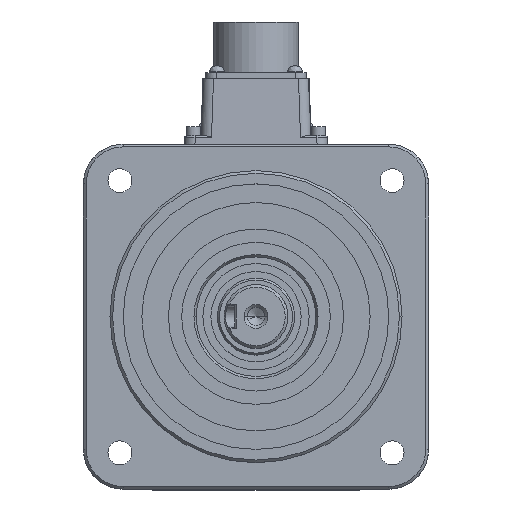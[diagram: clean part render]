
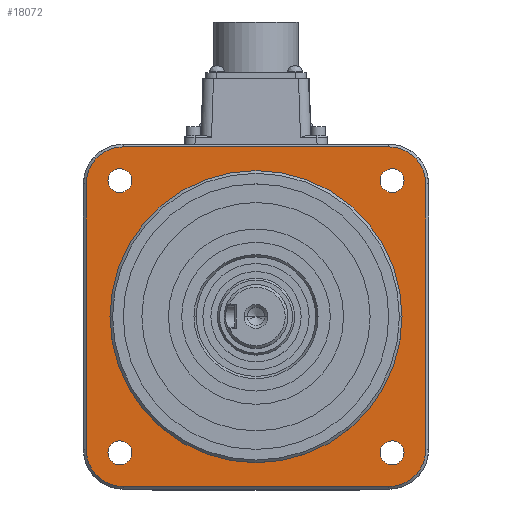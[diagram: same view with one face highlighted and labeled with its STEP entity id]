
A CAD part, top view. The second image highlights one B-rep face of the part: STEP entity #18072.
In plain terms, the highlighted planar face has unit normal (0, 0, 1).
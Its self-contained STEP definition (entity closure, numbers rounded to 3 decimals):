
#5806=DIRECTION('',(0.,1.,0.));
#5807=VECTOR('',#5806,100.);
#5808=CARTESIAN_POINT('',(63.969,-50.,158.));
#5809=LINE('',#5808,#5807);
#5843=DIRECTION('',(1.,0.,0.));
#5844=VECTOR('',#5843,100.);
#5845=CARTESIAN_POINT('',(-50.,-63.969,158.));
#5846=LINE('',#5845,#5844);
#5847=CARTESIAN_POINT('',(50.,50.,158.));
#5848=DIRECTION('',(0.,0.,-1.));
#5849=DIRECTION('',(0.,1.,0.));
#5850=AXIS2_PLACEMENT_3D('',#5847,#5848,#5849);
#5852=CARTESIAN_POINT('',(50.,-50.,158.));
#5853=DIRECTION('',(0.,0.,-1.));
#5854=DIRECTION('',(1.,0.,0.));
#5855=AXIS2_PLACEMENT_3D('',#5852,#5853,#5854);
#5857=CARTESIAN_POINT('',(-50.,-50.,158.));
#5858=DIRECTION('',(0.,0.,-1.));
#5859=DIRECTION('',(0.,-1.,0.));
#5860=AXIS2_PLACEMENT_3D('',#5857,#5858,#5859);
#5862=DIRECTION('',(0.,1.,0.));
#5863=VECTOR('',#5862,100.);
#5864=CARTESIAN_POINT('',(-63.969,-50.,158.));
#5865=LINE('',#5864,#5863);
#5866=CARTESIAN_POINT('',(-50.,50.,158.));
#5867=DIRECTION('',(0.,0.,-1.));
#5868=DIRECTION('',(-1.,0.,0.));
#5869=AXIS2_PLACEMENT_3D('',#5866,#5867,#5868);
#5871=DIRECTION('',(1.,0.,0.));
#5872=VECTOR('',#5871,100.);
#5873=CARTESIAN_POINT('',(-50.,63.969,158.));
#5874=LINE('',#5873,#5872);
#5875=CARTESIAN_POINT('',(0.,0.,158.));
#5876=DIRECTION('',(0.,0.,1.));
#5877=DIRECTION('',(-1.,0.,0.));
#5878=AXIS2_PLACEMENT_3D('',#5875,#5876,#5877);
#5880=CARTESIAN_POINT('',(0.,0.,158.));
#5881=DIRECTION('',(0.,0.,1.));
#5882=DIRECTION('',(1.,0.,0.));
#5883=AXIS2_PLACEMENT_3D('',#5880,#5881,#5882);
#5885=CARTESIAN_POINT('',(-51.265,51.265,158.));
#5886=DIRECTION('',(0.,0.,1.));
#5887=DIRECTION('',(1.,0.,0.));
#5888=AXIS2_PLACEMENT_3D('',#5885,#5886,#5887);
#5890=CARTESIAN_POINT('',(-51.265,51.265,158.));
#5891=DIRECTION('',(0.,0.,1.));
#5892=DIRECTION('',(-1.,0.,0.));
#5893=AXIS2_PLACEMENT_3D('',#5890,#5891,#5892);
#5895=CARTESIAN_POINT('',(-51.265,-51.265,158.));
#5896=DIRECTION('',(0.,0.,1.));
#5897=DIRECTION('',(1.,0.,0.));
#5898=AXIS2_PLACEMENT_3D('',#5895,#5896,#5897);
#5900=CARTESIAN_POINT('',(-51.265,-51.265,158.));
#5901=DIRECTION('',(0.,0.,1.));
#5902=DIRECTION('',(-1.,0.,0.));
#5903=AXIS2_PLACEMENT_3D('',#5900,#5901,#5902);
#5905=CARTESIAN_POINT('',(51.265,-51.265,158.));
#5906=DIRECTION('',(0.,0.,1.));
#5907=DIRECTION('',(1.,0.,0.));
#5908=AXIS2_PLACEMENT_3D('',#5905,#5906,#5907);
#5910=CARTESIAN_POINT('',(51.265,-51.265,158.));
#5911=DIRECTION('',(0.,0.,1.));
#5912=DIRECTION('',(-1.,0.,0.));
#5913=AXIS2_PLACEMENT_3D('',#5910,#5911,#5912);
#5915=CARTESIAN_POINT('',(51.265,51.265,158.));
#5916=DIRECTION('',(0.,0.,1.));
#5917=DIRECTION('',(1.,0.,0.));
#5918=AXIS2_PLACEMENT_3D('',#5915,#5916,#5917);
#5920=CARTESIAN_POINT('',(51.265,51.265,158.));
#5921=DIRECTION('',(0.,0.,1.));
#5922=DIRECTION('',(-1.,0.,0.));
#5923=AXIS2_PLACEMENT_3D('',#5920,#5921,#5922);
#8484=CARTESIAN_POINT('',(-63.969,50.,158.));
#8485=VERTEX_POINT('',#8484);
#8488=CARTESIAN_POINT('',(50.,63.969,158.));
#8489=VERTEX_POINT('',#8488);
#8490=CARTESIAN_POINT('',(-50.,63.969,158.));
#8491=VERTEX_POINT('',#8490);
#8665=CARTESIAN_POINT('',(-50.,-63.969,158.));
#8666=VERTEX_POINT('',#8665);
#8667=CARTESIAN_POINT('',(-63.969,-50.,158.));
#8668=VERTEX_POINT('',#8667);
#8669=CARTESIAN_POINT('',(63.969,50.,158.));
#8670=VERTEX_POINT('',#8669);
#8671=CARTESIAN_POINT('',(63.969,-50.,158.));
#8672=VERTEX_POINT('',#8671);
#8673=CARTESIAN_POINT('',(50.,-63.969,158.));
#8674=VERTEX_POINT('',#8673);
#8675=CARTESIAN_POINT('',(-55.,0.,158.));
#8676=CARTESIAN_POINT('',(55.,0.,158.));
#8677=VERTEX_POINT('',#8675);
#8678=VERTEX_POINT('',#8676);
#8679=CARTESIAN_POINT('',(-46.765,51.265,158.));
#8680=CARTESIAN_POINT('',(-55.765,51.265,158.));
#8681=VERTEX_POINT('',#8679);
#8682=VERTEX_POINT('',#8680);
#8683=CARTESIAN_POINT('',(-46.765,-51.265,158.));
#8684=CARTESIAN_POINT('',(-55.765,-51.265,158.));
#8685=VERTEX_POINT('',#8683);
#8686=VERTEX_POINT('',#8684);
#8687=CARTESIAN_POINT('',(55.765,-51.265,158.));
#8688=CARTESIAN_POINT('',(46.765,-51.265,158.));
#8689=VERTEX_POINT('',#8687);
#8690=VERTEX_POINT('',#8688);
#8691=CARTESIAN_POINT('',(55.765,51.265,158.));
#8692=CARTESIAN_POINT('',(46.765,51.265,158.));
#8693=VERTEX_POINT('',#8691);
#8694=VERTEX_POINT('',#8692);
#18027=CARTESIAN_POINT('',(0.,0.,158.));
#18028=DIRECTION('',(0.,0.,1.));
#18029=DIRECTION('',(1.,0.,0.));
#18030=AXIS2_PLACEMENT_3D('',#18027,#18028,#18029);
#18031=PLANE('',#18030);
#18032=ORIENTED_EDGE('',*,*,#17955,.T.);
#18033=ORIENTED_EDGE('',*,*,#17981,.F.);
#18034=ORIENTED_EDGE('',*,*,#17996,.T.);
#18035=ORIENTED_EDGE('',*,*,#18021,.F.);
#18036=ORIENTED_EDGE('',*,*,#17884,.T.);
#18037=ORIENTED_EDGE('',*,*,#17899,.T.);
#18038=ORIENTED_EDGE('',*,*,#17914,.T.);
#18039=ORIENTED_EDGE('',*,*,#17940,.T.);
#18040=EDGE_LOOP('',(#18032,#18033,#18034,#18035,#18036,#18037,#18038,#18039));
#18041=FACE_OUTER_BOUND('',#18040,.F.);
#18043=ORIENTED_EDGE('',*,*,#18042,.T.);
#18045=ORIENTED_EDGE('',*,*,#18044,.T.);
#18046=EDGE_LOOP('',(#18043,#18045));
#18047=FACE_BOUND('',#18046,.F.);
#18049=ORIENTED_EDGE('',*,*,#18048,.T.);
#18051=ORIENTED_EDGE('',*,*,#18050,.T.);
#18052=EDGE_LOOP('',(#18049,#18051));
#18053=FACE_BOUND('',#18052,.F.);
#18055=ORIENTED_EDGE('',*,*,#18054,.T.);
#18057=ORIENTED_EDGE('',*,*,#18056,.T.);
#18058=EDGE_LOOP('',(#18055,#18057));
#18059=FACE_BOUND('',#18058,.F.);
#18061=ORIENTED_EDGE('',*,*,#18060,.T.);
#18063=ORIENTED_EDGE('',*,*,#18062,.T.);
#18064=EDGE_LOOP('',(#18061,#18063));
#18065=FACE_BOUND('',#18064,.F.);
#18067=ORIENTED_EDGE('',*,*,#18066,.T.);
#18069=ORIENTED_EDGE('',*,*,#18068,.T.);
#18070=EDGE_LOOP('',(#18067,#18069));
#18071=FACE_BOUND('',#18070,.F.);
#5851=CIRCLE('',#5850,13.969);
#5856=CIRCLE('',#5855,13.969);
#5861=CIRCLE('',#5860,13.969);
#5870=CIRCLE('',#5869,13.969);
#5879=CIRCLE('',#5878,55.);
#5884=CIRCLE('',#5883,55.);
#5889=CIRCLE('',#5888,4.5);
#5894=CIRCLE('',#5893,4.5);
#5899=CIRCLE('',#5898,4.5);
#5904=CIRCLE('',#5903,4.5);
#5909=CIRCLE('',#5908,4.5);
#5914=CIRCLE('',#5913,4.5);
#5919=CIRCLE('',#5918,4.5);
#5924=CIRCLE('',#5923,4.5);
#17884=EDGE_CURVE('',#8666,#8668,#5861,.T.);
#17899=EDGE_CURVE('',#8668,#8485,#5865,.T.);
#17914=EDGE_CURVE('',#8485,#8491,#5870,.T.);
#17940=EDGE_CURVE('',#8491,#8489,#5874,.T.);
#17955=EDGE_CURVE('',#8489,#8670,#5851,.T.);
#17981=EDGE_CURVE('',#8672,#8670,#5809,.T.);
#17996=EDGE_CURVE('',#8672,#8674,#5856,.T.);
#18021=EDGE_CURVE('',#8666,#8674,#5846,.T.);
#18042=EDGE_CURVE('',#8677,#8678,#5879,.T.);
#18044=EDGE_CURVE('',#8678,#8677,#5884,.T.);
#18048=EDGE_CURVE('',#8681,#8682,#5889,.T.);
#18050=EDGE_CURVE('',#8682,#8681,#5894,.T.);
#18054=EDGE_CURVE('',#8685,#8686,#5899,.T.);
#18056=EDGE_CURVE('',#8686,#8685,#5904,.T.);
#18060=EDGE_CURVE('',#8689,#8690,#5909,.T.);
#18062=EDGE_CURVE('',#8690,#8689,#5914,.T.);
#18066=EDGE_CURVE('',#8693,#8694,#5919,.T.);
#18068=EDGE_CURVE('',#8694,#8693,#5924,.T.);
#18072=ADVANCED_FACE('',(#18041,#18047,#18053,#18059,#18065,#18071),#18031,.T.);
